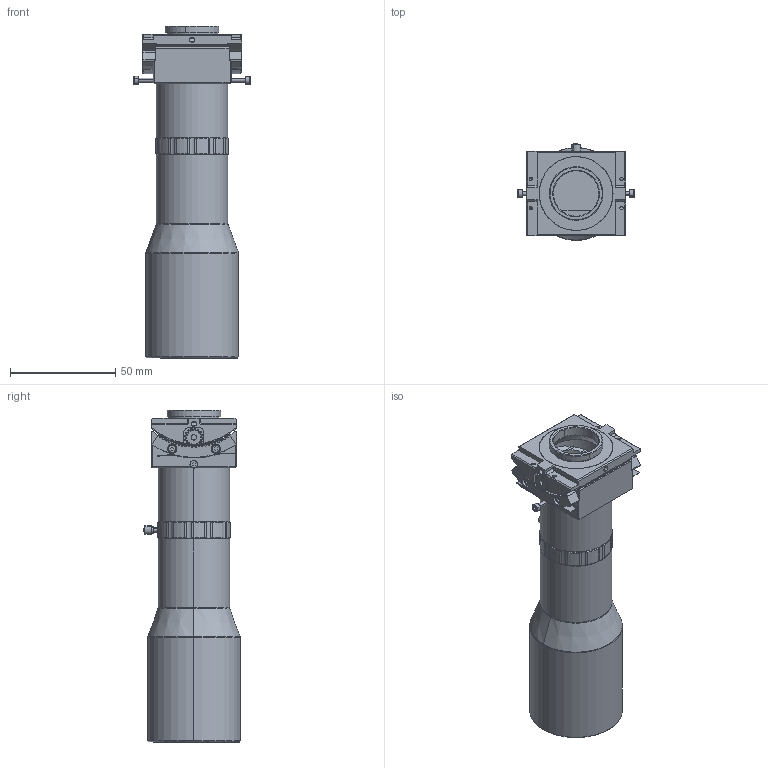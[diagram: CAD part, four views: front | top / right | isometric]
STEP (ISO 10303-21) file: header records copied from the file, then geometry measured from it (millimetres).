
FILE_DESCRIPTION (( 'STEP AP203' ), '1' );
FILE_NAME ('WWK075-115-111V3-G-SM.STEP', '2023-07-05T03:47:49', ( '' ), ( '' ), 'SwSTEP 2.0', 'SolidWorks 2017', '' );
FILE_SCHEMA (( 'CONFIG_CONTROL_DESIGN' ));
Length unit declared in the file: millimetre
Products named in the file (1): WWK075-115-111V3-G-SM
Bounding box: 55.11 x 45.79 x 157.38 mm (x, y, z)
Volume: 175598.1 mm3; surface area: 37789.3 mm2
Topology: 13 solids, 13 shells, 851 faces, 2281 edges, 1487 vertices
Faces by surface type: cylinder 385, plane 251, cone 141, bspline 68, torus 4, sphere 2
Entity records: 31587 total; most frequent: CARTESIAN_POINT 10550, ORIENTED_EDGE 4560, DIRECTION 4199, EDGE_CURVE 2280, AXIS2_PLACEMENT_3D 1595, VERTEX_POINT 1487, VECTOR 1009, LINE 1009
